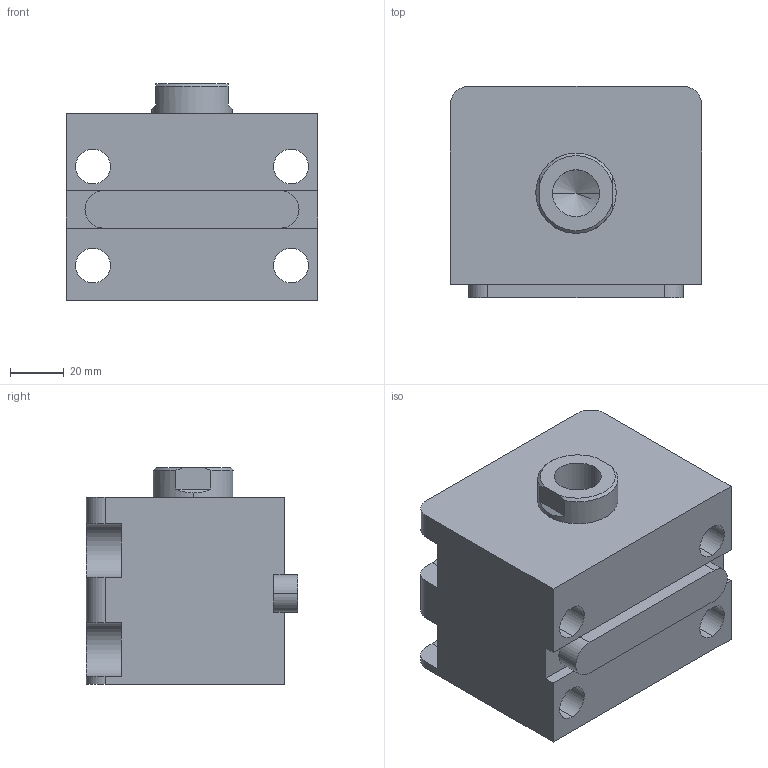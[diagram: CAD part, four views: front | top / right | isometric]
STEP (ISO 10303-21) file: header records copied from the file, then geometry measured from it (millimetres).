
FILE_DESCRIPTION (( 'STEP AP203' ), '1' );
FILE_NAME ('HTB-LA50-10N.STEP', '2019-10-09T07:06:07', ( '微软用户' ), ( '微软中国' ), 'SwSTEP 2.0', 'SolidWorks 2012', '' );
FILE_SCHEMA (( 'CONFIG_CONTROL_DESIGN' ));
Length unit declared in the file: millimetre
Products named in the file (4): HTB-LA50-10掛极; HTB-LA50-10N活塞杆; HTB-LA50-瑩; HTB-LA50-10N
Assembly tree (3 placements, depth 2):
  HTB-LA50-10N
    HTB-LA50-10掛极
    HTB-LA50-10N活塞杆
    HTB-LA50-瑩
Bounding box: 94 x 79 x 81 mm (x, y, z)
Volume: 425673.2 mm3; surface area: 76111.6 mm2
Topology: 3 solids, 3 shells, 86 faces, 213 edges, 139 vertices
Faces by surface type: plane 39, cylinder 35, cone 8, torus 4
Entity records: 3001 total; most frequent: DIRECTION 475, CARTESIAN_POINT 470, ORIENTED_EDGE 422, EDGE_CURVE 211, AXIS2_PLACEMENT_3D 180, VERTEX_POINT 139, VECTOR 115, LINE 115
